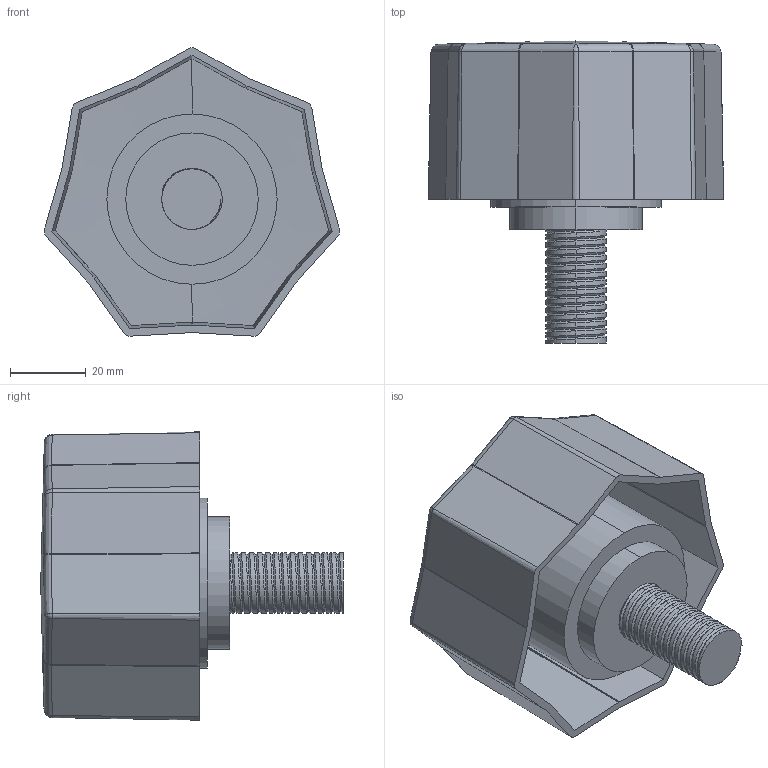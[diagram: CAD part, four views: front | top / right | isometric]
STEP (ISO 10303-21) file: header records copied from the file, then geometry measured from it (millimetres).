
FILE_DESCRIPTION (( 'STEP AP203' ), '1' );
FILE_NAME ('AP-1050-80-M16-30.STEP', '2015-11-23T12:07:56', ( '' ), ( '' ), 'SwSTEP 2.0', 'SolidWorks 2014', '' );
FILE_SCHEMA (( 'CONFIG_CONTROL_DESIGN' ));
Length unit declared in the file: millimetre
Products named in the file (1): AP-1050-80-M16-30
Bounding box: 78.09 x 80 x 76.23 mm (x, y, z)
Volume: 104337.5 mm3; surface area: 35180.2 mm2
Topology: 1 solids, 1 shells, 147 faces, 375 edges, 224 vertices
Faces by surface type: cylinder 51, bspline 51, plane 34, cone 11
Entity records: 8462 total; most frequent: CARTESIAN_POINT 5532, ORIENTED_EDGE 732, DIRECTION 416, EDGE_CURVE 366, VERTEX_POINT 224, EDGE_LOOP 150, FACE_OUTER_BOUND 147, ADVANCED_FACE 147
